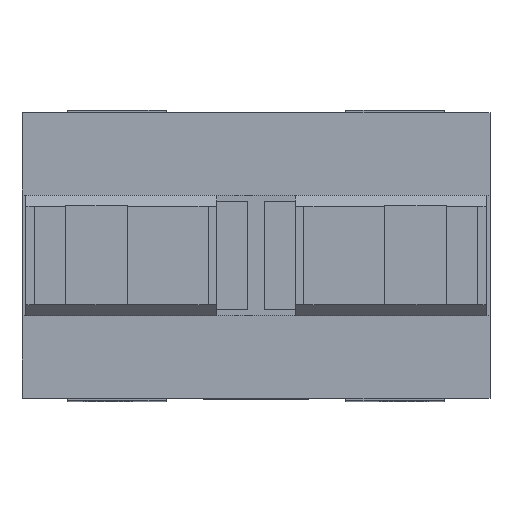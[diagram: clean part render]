
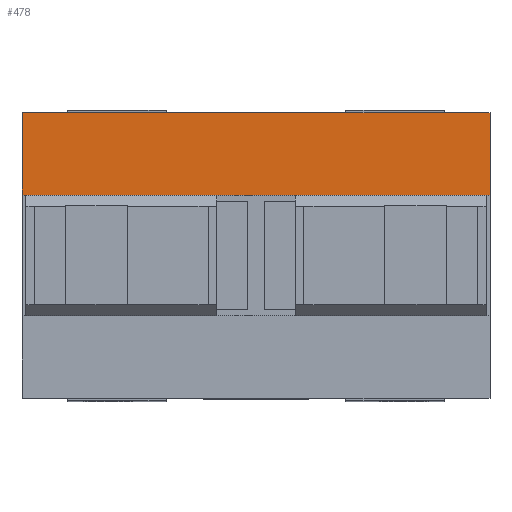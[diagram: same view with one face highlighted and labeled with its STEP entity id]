
A CAD part, top view. The second image highlights one B-rep face of the part: STEP entity #478.
In plain terms, the highlighted planar face has unit normal (0, 0, 1).
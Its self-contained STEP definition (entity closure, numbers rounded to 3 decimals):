
#478 = ADVANCED_FACE( '', ( #998 ), #999, .F. );
#998 = FACE_OUTER_BOUND( '', #1550, .T. );
#999 = PLANE( '', #1551 );
#1550 = EDGE_LOOP( '', ( #2754, #2755, #2756, #2757 ) );
#1551 = AXIS2_PLACEMENT_3D( '', #2758, #2759, #2760 );
#2754 = ORIENTED_EDGE( '', *, *, #3212, .T. );
#2755 = ORIENTED_EDGE( '', *, *, #3179, .F. );
#2756 = ORIENTED_EDGE( '', *, *, #3580, .F. );
#2757 = ORIENTED_EDGE( '', *, *, #3274, .T. );
#2758 = CARTESIAN_POINT( '', ( 19., 11.6, 50. ) );
#2759 = DIRECTION( '', ( 0., 0., -1. ) );
#2760 = DIRECTION( '', ( -1., 0., 0. ) );
#3179 = EDGE_CURVE( '', #3786, #3788, #3789, .T. );
#3212 = EDGE_CURVE( '', #3844, #3788, #3845, .T. );
#3274 = EDGE_CURVE( '', #3948, #3844, #3949, .T. );
#3580 = EDGE_CURVE( '', #3948, #3786, #4385, .T. );
#3786 = VERTEX_POINT( '', #4650 );
#3788 = VERTEX_POINT( '', #4653 );
#3789 = LINE( '', #4654, #4655 );
#3844 = VERTEX_POINT( '', #4730 );
#3845 = LINE( '', #4731, #4732 );
#3948 = VERTEX_POINT( '', #4870 );
#3949 = LINE( '', #4871, #4872 );
#4385 = LINE( '', #5482, #5483 );
#4650 = CARTESIAN_POINT( '', ( 19., 4.9, 50. ) );
#4653 = CARTESIAN_POINT( '', ( -19., 4.9, 50. ) );
#4654 = CARTESIAN_POINT( '', ( 19., 4.9, 50. ) );
#4655 = VECTOR( '', #5649, 1000. );
#4730 = CARTESIAN_POINT( '', ( -19., 11.6, 50. ) );
#4731 = CARTESIAN_POINT( '', ( -19., 11.6, 50. ) );
#4732 = VECTOR( '', #5688, 1000. );
#4870 = CARTESIAN_POINT( '', ( 19., 11.6, 50. ) );
#4871 = CARTESIAN_POINT( '', ( 19., 11.6, 50. ) );
#4872 = VECTOR( '', #5766, 1000. );
#5482 = CARTESIAN_POINT( '', ( 19., 11.6, 50. ) );
#5483 = VECTOR( '', #6070, 1000. );
#5649 = DIRECTION( '', ( -1., 0., 0. ) );
#5688 = DIRECTION( '', ( 0., -1., 0. ) );
#5766 = DIRECTION( '', ( -1., 0., 0. ) );
#6070 = DIRECTION( '', ( 0., -1., 0. ) );
